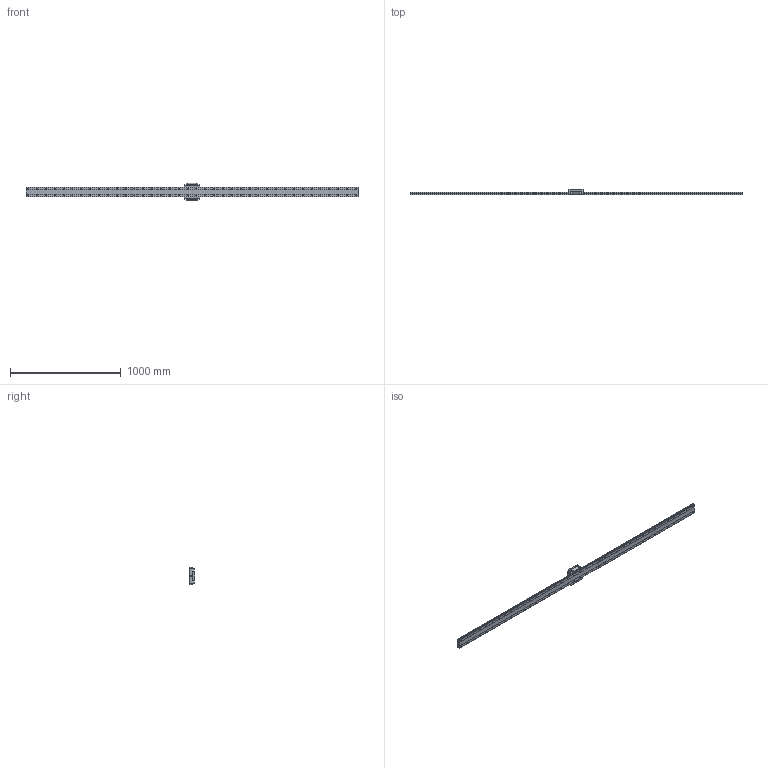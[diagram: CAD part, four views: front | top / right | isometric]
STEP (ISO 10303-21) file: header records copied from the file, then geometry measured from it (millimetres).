
FILE_DESCRIPTION(/* description */ ('STEP AP214'),/* implementation_level */ '2;1');
FILE_NAME(/* name */ 'SHW50CA1SS-3000L_G20_0_Without_grease_nipple_1429-5_0_0_01',/* time_stamp */ '2024-02-12T10:06:22+01:00',/* author */ ('License CC BY-ND 4.0'),/* organization */ ('CADENAS'),/* preprocessor_version */ 'ST-DEVELOPER v19.3',/* originating_system */ 'PARTsolutions',/* authorisation */ ' ');
FILE_SCHEMA (('AUTOMOTIVE_DESIGN {1 0 10303 214 3 1 1}'));
Length unit declared in the file: millimetre
Products named in the file (4): SHW50CA1SS-3000L_G20_0_Without_grease_nipple_1429-5_0_0_01; SHW50CA300020 Track; SHW50CASS1 Slide12-50; -SHW_grease_nipple_joint
Assembly tree (3 placements, depth 2):
  SHW50CA1SS-3000L_G20_0_Without_grease_nipple_1429-5_0_0_01
    SHW50CA300020 Track
    SHW50CASS1 Slide12-50
    -SHW_grease_nipple_joint
Bounding box: 3000 x 50 x 162 mm (x, y, z)
Volume: 6519128.2 mm3; surface area: 838109.1 mm2
Topology: 2 solids, 2 shells, 402 faces, 955 edges, 634 vertices
Faces by surface type: cylinder 200, plane 184, cone 18
Full cylindrical faces by diameter (mm): 8.6 x6, 9 x76, 14 x76
Entity records: 11248 total; most frequent: DIRECTION 2010, CARTESIAN_POINT 1835, ORIENTED_EDGE 1536, AXIS2_PLACEMENT_3D 840, FACE_BOUND 820, EDGE_LOOP 818, EDGE_CURVE 768, VERTEX_POINT 624
